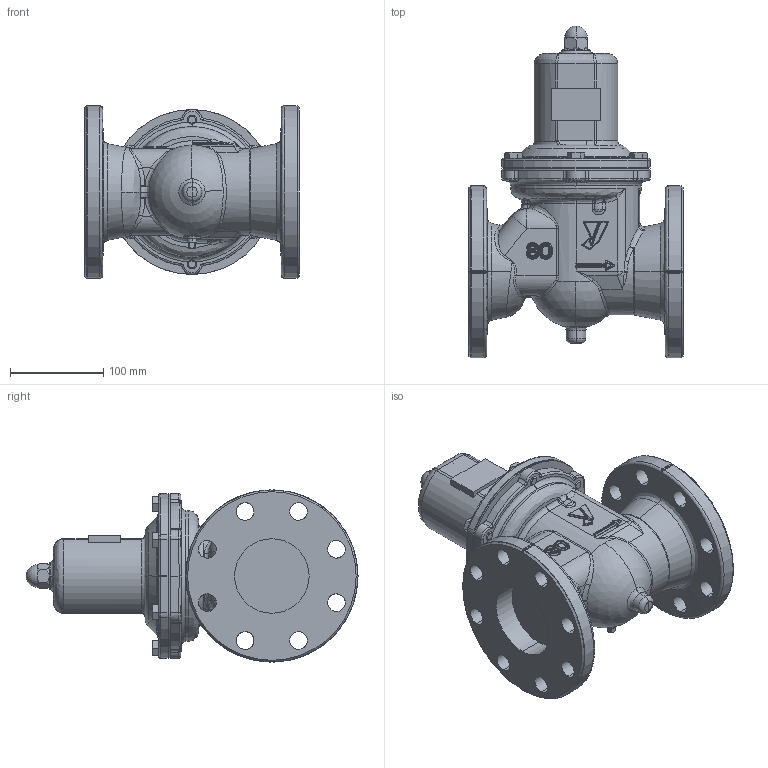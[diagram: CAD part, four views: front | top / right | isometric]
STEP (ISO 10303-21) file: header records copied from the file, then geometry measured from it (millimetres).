
FILE_DESCRIPTION( (''), '2;1');
FILE_NAME ('PC1276.8.GD-27-NE 80A_31304.stp','2025-06-09T15:23:30',(''),(''),'spGate 20.6.3 (****-****-****-****)','','');
FILE_SCHEMA (('AUTOMOTIVE_DESIGN'));
Length unit declared in the file: millimetre
Products named in the file (6): Assembly; GD-27_80A_弁箱; 保護筒 65-80A; 四角プラグ R1／8; CP_''_JIS B 1183 六角袋ナット 3形 M''_705; CP_''_JIS B 1180 呼び径六角ボルト''_17166
Assembly tree (10 placements, depth 2):
  Assembly
    GD-27_80A_弁箱
    保護筒 65-80A
    四角プラグ R1／8
    CP_''_JIS B 1183 六角袋ナット 3形 M''_705
    CP_''_JIS B 1180 呼び径六角ボルト''_17166  x6
Bounding box: 230 x 356.5 x 184.97 mm (x, y, z)
Volume: 3563849.9 mm3; surface area: 407361.4 mm2
Topology: 10 solids, 10 shells, 834 faces, 1980 edges, 1123 vertices
Faces by surface type: bspline 381, cylinder 240, plane 162, sphere 51
Entity records: 49654 total; most frequent: CARTESIAN_POINT 22087, ORIENTED_EDGE 3330, DIRECTION 2419, COLOUR_RGB 2384, PRESENTATION_STYLE_ASSIGNMENT 2384, STYLED_ITEM 2384, EDGE_CURVE 1665, DRAUGHTING_PRE_DEFINED_CURVE_FONT 1665
